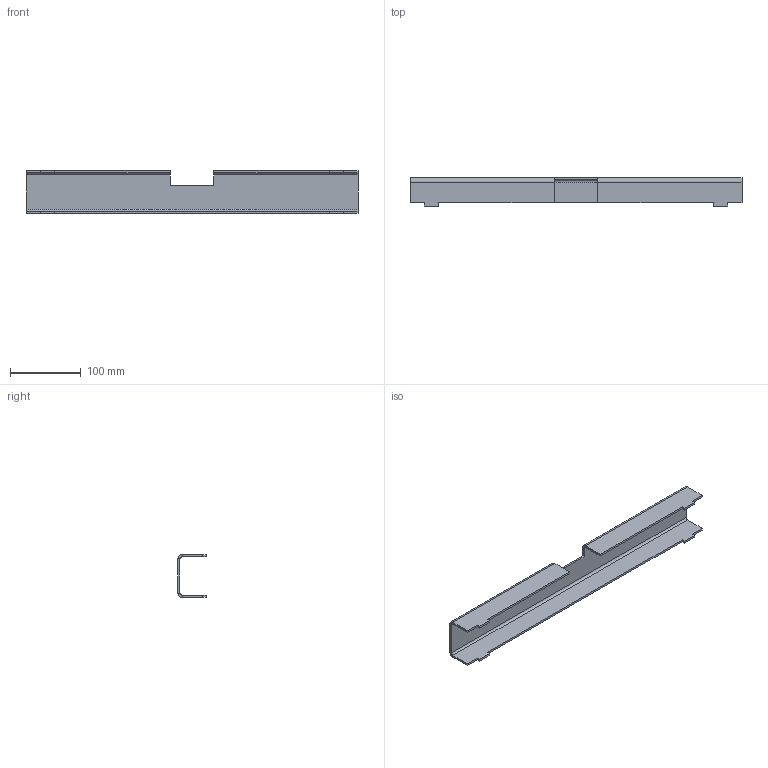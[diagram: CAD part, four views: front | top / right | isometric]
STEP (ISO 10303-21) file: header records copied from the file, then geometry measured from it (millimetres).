
FILE_DESCRIPTION (( 'STEP AP203' ), '1' );
FILE_NAME ('ORW-72.24.10.007 Ïðîôèëü.STEP', '2025-12-17T13:01:11', ( 'Àíäðåé' ), ( '' ), 'SwSTEP 2.0', 'SolidWorks 2025', '' );
FILE_SCHEMA (( 'CONFIG_CONTROL_DESIGN' ));
Length unit declared in the file: millimetre
Products named in the file (1): ORW-72.24.10.007 Профиль
Bounding box: 468 x 40 x 60 mm (x, y, z)
Volume: 160618.5 mm3; surface area: 111031.3 mm2
Topology: 1 solids, 1 shells, 46 faces, 116 edges, 72 vertices
Faces by surface type: plane 40, cylinder 6
Entity records: 1413 total; most frequent: CARTESIAN_POINT 243, ORIENTED_EDGE 232, DIRECTION 214, EDGE_CURVE 116, LINE 96, VECTOR 96, VERTEX_POINT 72, AXIS2_PLACEMENT_3D 59
